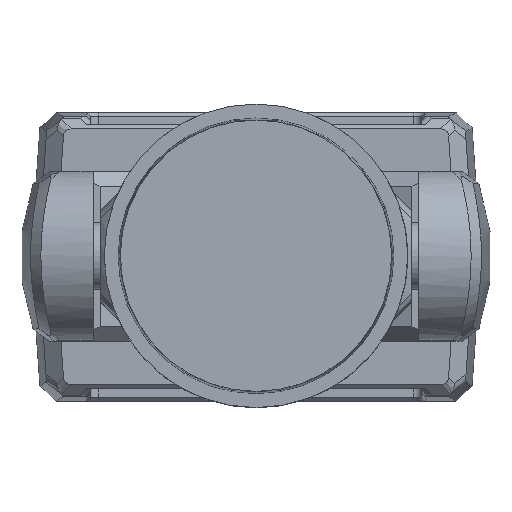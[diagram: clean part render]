
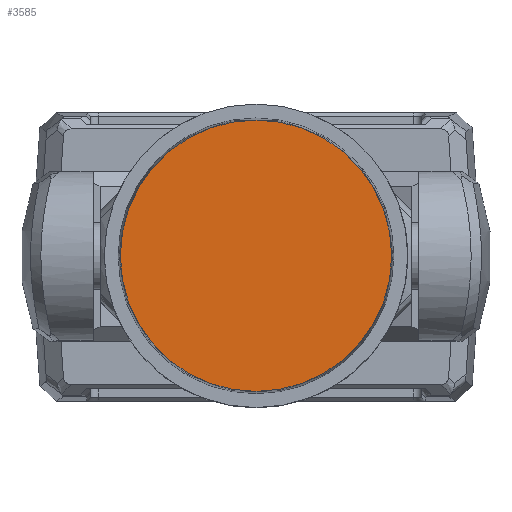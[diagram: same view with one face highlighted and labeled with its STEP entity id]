
A CAD part, top view. The second image highlights one B-rep face of the part: STEP entity #3585.
In plain terms, the highlighted planar face has unit normal (0, 0, 1).
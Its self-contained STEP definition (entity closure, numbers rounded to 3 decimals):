
#231=PLANE('',#3811);
#273=CIRCLE('',#3810,70.869);
#1689=ORIENTED_EDGE('',*,*,#2227,.F.);
#2227=EDGE_CURVE('',#2589,#2589,#273,.T.);
#2589=VERTEX_POINT('',#8755);
#3119=EDGE_LOOP('',(#1689));
#3347=FACE_BOUND('',#3119,.T.);
#3585=ADVANCED_FACE('',(#3347),#231,.F.);
#3810=AXIS2_PLACEMENT_3D('',#8754,#4359,#4360);
#3811=AXIS2_PLACEMENT_3D('',#8756,#4361,#4362);
#4359=DIRECTION('',(0.,0.,-1.));
#4360=DIRECTION('',(-1.,0.,0.));
#4361=DIRECTION('',(0.,0.,-1.));
#4362=DIRECTION('',(-1.,0.,0.));
#8754=CARTESIAN_POINT('',(0.,0.,119.4));
#8755=CARTESIAN_POINT('',(-70.869,0.,119.4));
#8756=CARTESIAN_POINT('',(0.,0.,119.4));
